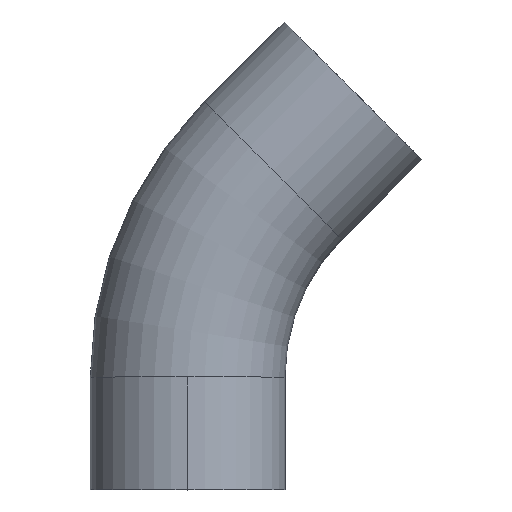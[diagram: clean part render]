
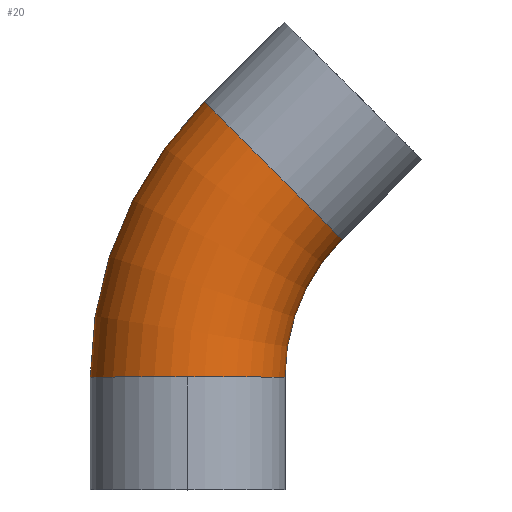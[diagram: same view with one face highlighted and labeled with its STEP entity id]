
A CAD part, top view. The second image highlights one B-rep face of the part: STEP entity #20.
In plain terms, the highlighted toroidal (fillet/blend) face has major radius 95.25 mm and minor radius 31.75 mm.
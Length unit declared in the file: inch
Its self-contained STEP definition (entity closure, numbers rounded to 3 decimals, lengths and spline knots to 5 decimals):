
#10 = ORIENTED_EDGE ( 'NONE', *, *, #236, .F. ) ;
#17 = DIRECTION ( 'NONE',  ( 0., 1., 0. ) ) ;
#20 = ADVANCED_FACE ( 'NONE', ( #172 ), #38, .T. ) ;
#38 = TOROIDAL_SURFACE ( 'NONE', #177, 3.75, 1.25 ) ;
#46 = AXIS2_PLACEMENT_3D ( 'NONE', #290, #17, #324 ) ;
#86 = CIRCLE ( 'NONE', #97, 5. ) ;
#89 = CARTESIAN_POINT ( 'NONE',  ( 0., 1.447, 0. ) ) ;
#90 = DIRECTION ( 'NONE',  ( 0.707, 0.707, 0. ) ) ;
#92 = AXIS2_PLACEMENT_3D ( 'NONE', #348, #90, #381 ) ;
#97 = AXIS2_PLACEMENT_3D ( 'NONE', #224, #467, #273 ) ;
#98 = AXIS2_PLACEMENT_3D ( 'NONE', #89, #378, #141 ) ;
#104 = AXIS2_PLACEMENT_3D ( 'NONE', #402, #174, #428 ) ;
#109 = ORIENTED_EDGE ( 'NONE', *, *, #405, .T. ) ;
#113 = CARTESIAN_POINT ( 'NONE',  ( 0., 1.447, 1.25 ) ) ;
#137 = EDGE_LOOP ( 'NONE', ( #321, #483, #109, #244, #10 ) ) ;
#141 = DIRECTION ( 'NONE',  ( -1., 0., 0. ) ) ;
#162 = CARTESIAN_POINT ( 'NONE',  ( 1.25, 1.447, 0. ) ) ;
#172 = FACE_OUTER_BOUND ( 'NONE', #137, .T. ) ;
#174 = DIRECTION ( 'NONE',  ( 0., 0., 1. ) ) ;
#176 = DIRECTION ( 'NONE',  ( 0., 0., 1. ) ) ;
#177 = AXIS2_PLACEMENT_3D ( 'NONE', #218, #176, #461 ) ;
#218 = CARTESIAN_POINT ( 'NONE',  ( 3.75, 1.447, 0. ) ) ;
#224 = CARTESIAN_POINT ( 'NONE',  ( 3.75, 1.447, 0. ) ) ;
#233 = CARTESIAN_POINT ( 'NONE',  ( 0.21447, 4.98253, 0. ) ) ;
#236 = EDGE_CURVE ( 'NONE', #272, #358, #477, .T. ) ;
#240 = EDGE_CURVE ( 'NONE', #403, #358, #471, .T. ) ;
#244 = ORIENTED_EDGE ( 'NONE', *, *, #240, .T. ) ;
#246 = EDGE_CURVE ( 'NONE', #315, #407, #86, .T. ) ;
#247 = CARTESIAN_POINT ( 'NONE',  ( -1.25, 1.447, 0. ) ) ;
#248 = EDGE_CURVE ( 'NONE', #315, #272, #400, .T. ) ;
#272 = VERTEX_POINT ( 'NONE', #276 ) ;
#273 = DIRECTION ( 'NONE',  ( 1., 0., 0. ) ) ;
#276 = CARTESIAN_POINT ( 'NONE',  ( 1.98223, 3.21477, 0. ) ) ;
#290 = CARTESIAN_POINT ( 'NONE',  ( 0., 1.447, 0. ) ) ;
#315 = VERTEX_POINT ( 'NONE', #233 ) ;
#321 = ORIENTED_EDGE ( 'NONE', *, *, #248, .F. ) ;
#324 = DIRECTION ( 'NONE',  ( -1., 0., 0. ) ) ;
#348 = CARTESIAN_POINT ( 'NONE',  ( 1.09835, 4.09865, 0. ) ) ;
#358 = VERTEX_POINT ( 'NONE', #162 ) ;
#378 = DIRECTION ( 'NONE',  ( 0., 1., 0. ) ) ;
#381 = DIRECTION ( 'NONE',  ( -0.707, 0.707, 0. ) ) ;
#400 = CIRCLE ( 'NONE', #92, 1.25 ) ;
#402 = CARTESIAN_POINT ( 'NONE',  ( 3.75, 1.447, 0. ) ) ;
#403 = VERTEX_POINT ( 'NONE', #113 ) ;
#405 = EDGE_CURVE ( 'NONE', #407, #403, #463, .T. ) ;
#407 = VERTEX_POINT ( 'NONE', #247 ) ;
#428 = DIRECTION ( 'NONE',  ( 1., 0., 0. ) ) ;
#461 = DIRECTION ( 'NONE',  ( 1., 0., 0. ) ) ;
#463 = CIRCLE ( 'NONE', #46, 1.25 ) ;
#467 = DIRECTION ( 'NONE',  ( 0., 0., 1. ) ) ;
#471 = CIRCLE ( 'NONE', #98, 1.25 ) ;
#477 = CIRCLE ( 'NONE', #104, 2.5 ) ;
#483 = ORIENTED_EDGE ( 'NONE', *, *, #246, .T. ) ;
